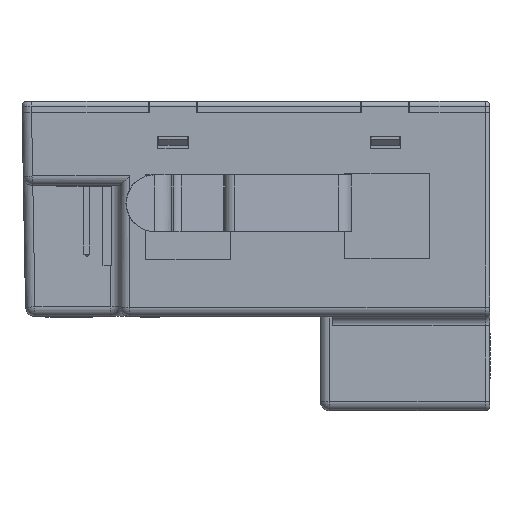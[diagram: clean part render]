
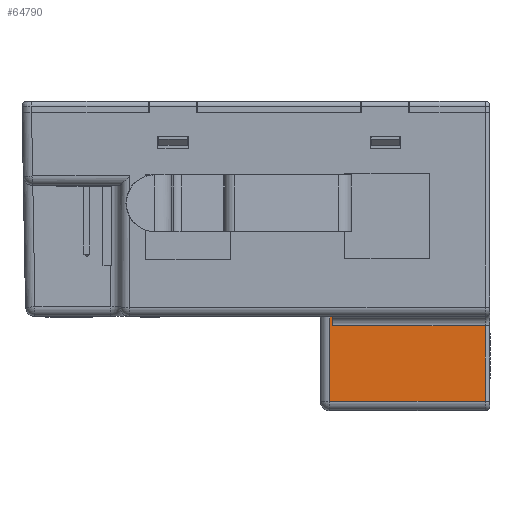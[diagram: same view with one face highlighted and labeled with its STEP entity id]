
A CAD part, left-side view. The second image highlights one B-rep face of the part: STEP entity #64790.
In plain terms, the highlighted planar face has unit normal (-1, 0, 0).
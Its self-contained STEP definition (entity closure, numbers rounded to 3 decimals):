
#11850=CARTESIAN_POINT('',(-15.,-5.3,22.8));
#11860=VERTEX_POINT('',#11850);
#11890=CARTESIAN_POINT('',(-15.,-5.3,22.8));
#11900=DIRECTION('',(0.,1.,0.));
#11910=VECTOR('',#11900,1.);
#11920=LINE('',#11890,#11910);
#11930=CARTESIAN_POINT('',(-15.,-5.,22.8));
#11940=VERTEX_POINT('',#11930);
#11950=EDGE_CURVE('',#11860,#11940,#11920,.T.);
#59880=CARTESIAN_POINT('',(-15.,-21.5,-1.));
#59890=VERTEX_POINT('',#59880);
#59920=CARTESIAN_POINT('',(-15.,-5.3,-1.));
#59930=DIRECTION('',(0.,-1.,0.));
#59940=VECTOR('',#59930,1.);
#59950=LINE('',#59920,#59940);
#59960=CARTESIAN_POINT('',(-15.,-5.3,-1.));
#59970=VERTEX_POINT('',#59960);
#59980=EDGE_CURVE('',#59970,#59890,#59950,.T.);
#60590=CARTESIAN_POINT('',(-15.,-21.5,-9.));
#60600=VERTEX_POINT('',#60590);
#60630=CARTESIAN_POINT('',(-15.,-21.5,-1.));
#60640=DIRECTION('',(0.,0.,-1.));
#60650=VECTOR('',#60640,1.);
#60660=LINE('',#60630,#60650);
#60670=EDGE_CURVE('',#59890,#60600,#60660,.T.);
#64300=CARTESIAN_POINT('',(-15.,-5.,-9.));
#64310=DIRECTION('',(0.,0.,1.));
#64320=VECTOR('',#64310,1.);
#64330=LINE('',#64300,#64320);
#64340=CARTESIAN_POINT('',(-15.,-5.,-9.));
#64350=VERTEX_POINT('',#64340);
#64360=EDGE_CURVE('',#64350,#11940,#64330,.T.);
#64560=CARTESIAN_POINT('',(-15.,-21.916,23.598));
#64570=DIRECTION('',(-1.,0.,0.));
#64580=DIRECTION('',(0.,1.,0.));
#64590=AXIS2_PLACEMENT_3D('',#64560,#64570,#64580);
#64600=PLANE('',#64590);
#64610=ORIENTED_EDGE('',*,*,#64360,.F.);
#64620=ORIENTED_EDGE('',*,*,#11950,.T.);
#64630=CARTESIAN_POINT('',(-15.,-5.3,22.8));
#64640=DIRECTION('',(0.,0.,-1.));
#64650=VECTOR('',#64640,1.);
#64660=LINE('',#64630,#64650);
#64670=EDGE_CURVE('',#11860,#59970,#64660,.T.);
#64680=ORIENTED_EDGE('',*,*,#64670,.F.);
#64690=ORIENTED_EDGE('',*,*,#59980,.F.);
#64700=ORIENTED_EDGE('',*,*,#60670,.F.);
#64710=CARTESIAN_POINT('',(-15.,-21.5,-9.));
#64720=DIRECTION('',(0.,1.,0.));
#64730=VECTOR('',#64720,1.);
#64740=LINE('',#64710,#64730);
#64750=EDGE_CURVE('',#60600,#64350,#64740,.T.);
#64760=ORIENTED_EDGE('',*,*,#64750,.F.);
#64770=EDGE_LOOP('',(#64760,#64700,#64690,#64680,#64620,#64610));
#64780=FACE_OUTER_BOUND('',#64770,.T.);
#64790=ADVANCED_FACE('',(#64780),#64600,.T.);
